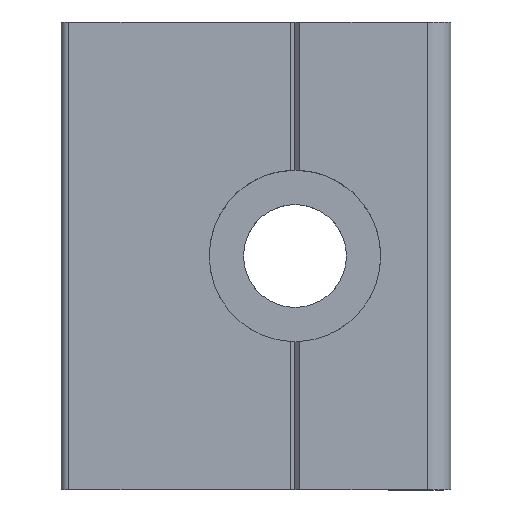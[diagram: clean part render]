
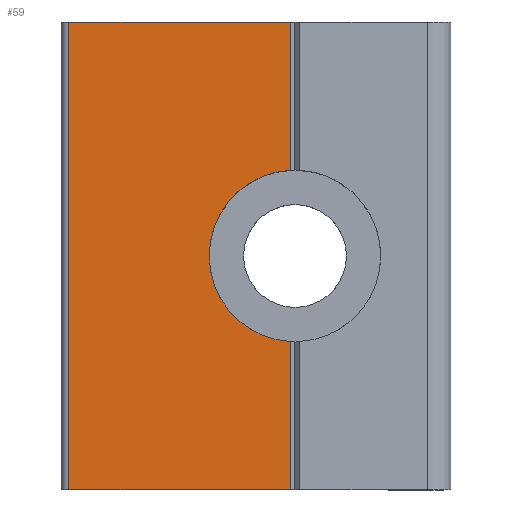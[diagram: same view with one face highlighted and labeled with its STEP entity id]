
A CAD part, top view. The second image highlights one B-rep face of the part: STEP entity #59.
In plain terms, the highlighted planar face has unit normal (0, 0, 1).
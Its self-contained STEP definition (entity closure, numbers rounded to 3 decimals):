
#59=ADVANCED_FACE('',(#143),#144,.F.);
#143=FACE_OUTER_BOUND('',#252,.T.);
#144=PLANE('',#253);
#252=EDGE_LOOP('',(#360,#361,#362,#363,#364,#365));
#253=AXIS2_PLACEMENT_3D('',#366,#367,#368);
#360=ORIENTED_EDGE('',*,*,#673,.T.);
#361=ORIENTED_EDGE('',*,*,#674,.F.);
#362=ORIENTED_EDGE('',*,*,#675,.T.);
#363=ORIENTED_EDGE('',*,*,#676,.T.);
#364=ORIENTED_EDGE('',*,*,#677,.F.);
#365=ORIENTED_EDGE('',*,*,#678,.F.);
#366=CARTESIAN_POINT('',(6.7,0.,4.8));
#367=DIRECTION('',(0.0,0.0,-1.0));
#368=DIRECTION('',(0.0,1.0,0.0));
#673=EDGE_CURVE('',#802,#803,#804,.T.);
#674=EDGE_CURVE('',#805,#803,#806,.T.);
#675=EDGE_CURVE('',#805,#807,#808,.T.);
#676=EDGE_CURVE('',#807,#809,#810,.T.);
#677=EDGE_CURVE('',#811,#809,#812,.T.);
#678=EDGE_CURVE('',#802,#811,#813,.T.);
#802=VERTEX_POINT('',#993);
#803=VERTEX_POINT('',#994);
#804=LINE('',#995,#996);
#805=VERTEX_POINT('',#997);
#806=CIRCLE('',#998,5.5);
#807=VERTEX_POINT('',#999);
#808=LINE('',#1000,#1001);
#809=VERTEX_POINT('',#1002);
#810=LINE('',#1003,#1004);
#811=VERTEX_POINT('',#1005);
#812=LINE('',#1006,#1007);
#813=LINE('',#1008,#1009);
#993=CARTESIAN_POINT('',(6.7,0.,4.8));
#994=CARTESIAN_POINT('',(6.7,9.508,4.8));
#995=CARTESIAN_POINT('',(6.7,0.,4.8));
#996=VECTOR('',#1232,1.0);
#997=CARTESIAN_POINT('',(6.7,20.492,4.8));
#998=AXIS2_PLACEMENT_3D('',#1233,#1234,#1235);
#999=CARTESIAN_POINT('',(6.7,30.,4.8));
#1000=CARTESIAN_POINT('',(6.7,0.,4.8));
#1001=VECTOR('',#1236,1.0);
#1002=CARTESIAN_POINT('',(-7.5,30.,4.8));
#1003=CARTESIAN_POINT('',(6.7,30.,4.8));
#1004=VECTOR('',#1237,1.0);
#1005=CARTESIAN_POINT('',(-7.5,0.,4.8));
#1006=CARTESIAN_POINT('',(-7.5,0.,4.8));
#1007=VECTOR('',#1238,1.0);
#1008=CARTESIAN_POINT('',(6.7,0.,4.8));
#1009=VECTOR('',#1239,1.0);
#1232=DIRECTION('',(0.0,1.0,0.0));
#1233=CARTESIAN_POINT('',(7.,15.,4.8));
#1234=DIRECTION('',(0.0,0.,1.0));
#1235=DIRECTION('',(0.0,1.0,0.));
#1236=DIRECTION('',(0.0,1.0,0.0));
#1237=DIRECTION('',(-1.0,0.0,0.0));
#1238=DIRECTION('',(0.0,1.0,0.0));
#1239=DIRECTION('',(-1.0,0.0,0.0));
